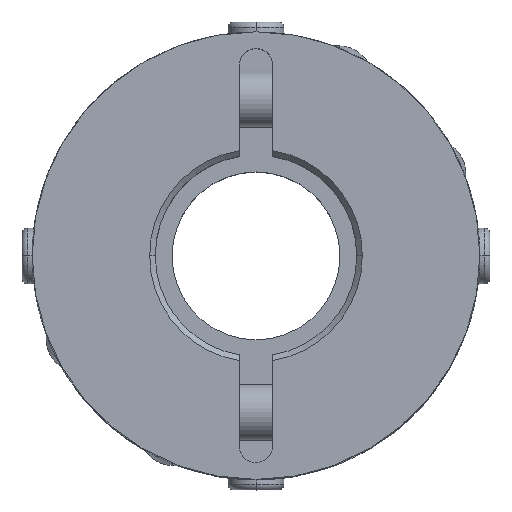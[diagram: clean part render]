
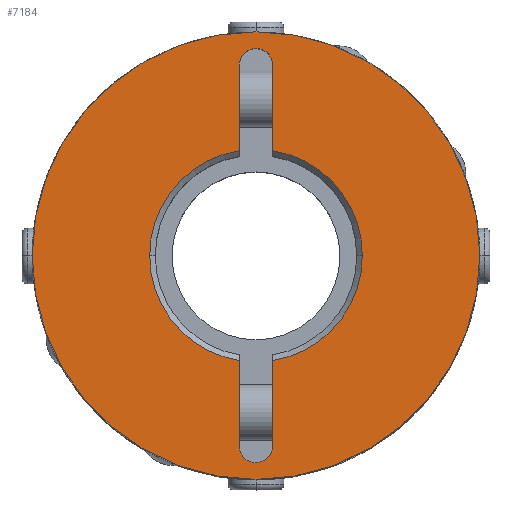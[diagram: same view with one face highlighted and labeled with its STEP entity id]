
A CAD part, top view. The second image highlights one B-rep face of the part: STEP entity #7184.
In plain terms, the highlighted planar face has unit normal (0, 0, 1).
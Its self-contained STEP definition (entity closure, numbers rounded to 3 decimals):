
#2862=CARTESIAN_POINT('',(-1.061,18.061,20.0));
#2863=VERTEX_POINT('',#2862);
#2879=CARTESIAN_POINT('',(1.5,17.,20.0));
#2880=VERTEX_POINT('',#2879);
#2887=CARTESIAN_POINT('',(0.,17.,20.0));
#2888=DIRECTION('',(0.0,0.0,1.));
#2889=DIRECTION('',(0.707,0.707,0.0));
#2890=AXIS2_PLACEMENT_3D('',#2887,#2888,#2889);
#2891=CIRCLE('',#2890,1.5);
#2892=EDGE_CURVE('',#2880,#2863,#2891,.T.);
#2904=CARTESIAN_POINT('',(1.061,-18.061,20.0));
#2905=VERTEX_POINT('',#2904);
#2921=CARTESIAN_POINT('',(-1.5,-17.,20.0));
#2922=VERTEX_POINT('',#2921);
#2929=CARTESIAN_POINT('',(0.0,-17.,20.0));
#2930=DIRECTION('',(0.0,0.0,1.0));
#2931=DIRECTION('',(-0.707,-0.707,0.0));
#2932=AXIS2_PLACEMENT_3D('',#2929,#2930,#2931);
#2933=CIRCLE('',#2932,1.5);
#2934=EDGE_CURVE('',#2922,#2905,#2933,.T.);
#3035=CARTESIAN_POINT('',(-9.5,0.,20.0));
#3036=VERTEX_POINT('',#3035);
#3043=CARTESIAN_POINT('',(-1.5,-9.381,20.0));
#3044=VERTEX_POINT('',#3043);
#3045=CARTESIAN_POINT('',(0.0,0.0,20.0));
#3046=DIRECTION('',(0.0,0.0,1.0));
#3047=DIRECTION('',(-1.0,0.0,0.0));
#3048=AXIS2_PLACEMENT_3D('',#3045,#3046,#3047);
#3049=CIRCLE('',#3048,9.5);
#3050=EDGE_CURVE('',#3036,#3044,#3049,.T.);
#3074=CARTESIAN_POINT('',(9.5,0.,20.0));
#3075=VERTEX_POINT('',#3074);
#3082=CARTESIAN_POINT('',(1.5,9.381,20.0));
#3083=VERTEX_POINT('',#3082);
#3084=CARTESIAN_POINT('',(0.0,0.0,20.0));
#3085=DIRECTION('',(0.0,0.0,1.0));
#3086=DIRECTION('',(1.0,0.0,0.0));
#3087=AXIS2_PLACEMENT_3D('',#3084,#3085,#3086);
#3088=CIRCLE('',#3087,9.5);
#3089=EDGE_CURVE('',#3075,#3083,#3088,.T.);
#3566=CARTESIAN_POINT('',(-20.0,0.,20.0));
#3567=VERTEX_POINT('',#3566);
#3574=CARTESIAN_POINT('',(20.0,0.0,20.0));
#3575=VERTEX_POINT('',#3574);
#3576=CARTESIAN_POINT('',(0.0,0.0,20.0));
#3577=DIRECTION('',(0.0,0.0,-1.0));
#3578=DIRECTION('',(1.0,0.0,0.0));
#3579=AXIS2_PLACEMENT_3D('',#3576,#3577,#3578);
#3580=CIRCLE('',#3579,20.0);
#3581=EDGE_CURVE('',#3567,#3575,#3580,.T.);
#6510=CARTESIAN_POINT('',(0.0,0.0,20.0));
#6511=DIRECTION('',(0.0,0.0,-1.0));
#6512=DIRECTION('',(1.0,0.0,0.0));
#6513=AXIS2_PLACEMENT_3D('',#6510,#6511,#6512);
#6514=CIRCLE('',#6513,20.0);
#6515=EDGE_CURVE('',#3575,#3567,#6514,.T.);
#6995=CARTESIAN_POINT('',(-1.5,17.,20.0));
#6996=VERTEX_POINT('',#6995);
#7003=CARTESIAN_POINT('',(-1.5,9.381,20.0));
#7004=VERTEX_POINT('',#7003);
#7005=CARTESIAN_POINT('',(-1.5,9.381,20.0));
#7006=DIRECTION('',(0.0,1.0,0.0));
#7007=VECTOR('',#7006,7.619);
#7008=LINE('',#7005,#7007);
#7009=EDGE_CURVE('',#7004,#6996,#7008,.T.);
#7084=CARTESIAN_POINT('',(1.5,17.,20.0));
#7085=DIRECTION('',(0.0,-1.0,0.0));
#7086=VECTOR('',#7085,7.619);
#7087=LINE('',#7084,#7086);
#7088=EDGE_CURVE('',#2880,#3083,#7087,.T.);
#7106=CARTESIAN_POINT('',(1.5,-9.381,20.0));
#7107=VERTEX_POINT('',#7106);
#7121=CARTESIAN_POINT('',(0.0,0.0,20.0));
#7122=DIRECTION('',(0.0,0.0,1.0));
#7123=DIRECTION('',(1.0,0.0,0.0));
#7124=AXIS2_PLACEMENT_3D('',#7121,#7122,#7123);
#7125=CIRCLE('',#7124,9.5);
#7126=EDGE_CURVE('',#7107,#3075,#7125,.T.);
#7131=CARTESIAN_POINT('',(1.818,0.,20.0));
#7132=DIRECTION('',(0.0,0.0,1.0));
#7133=DIRECTION('',(1.0,0.0,0.0));
#7134=AXIS2_PLACEMENT_3D('',#7131,#7132,#7133);
#7135=PLANE('',#7134);
#7136=ORIENTED_EDGE('',*,*,#6515,.F.);
#7137=ORIENTED_EDGE('',*,*,#3581,.F.);
#7138=EDGE_LOOP('',(#7136,#7137));
#7139=FACE_OUTER_BOUND('',#7138,.T.);
#7140=ORIENTED_EDGE('',*,*,#7126,.F.);
#7141=CARTESIAN_POINT('',(1.5,-17.,20.0));
#7142=VERTEX_POINT('',#7141);
#7143=CARTESIAN_POINT('',(1.5,-9.381,20.0));
#7144=DIRECTION('',(0.0,-1.0,0.0));
#7145=VECTOR('',#7144,7.619);
#7146=LINE('',#7143,#7145);
#7147=EDGE_CURVE('',#7107,#7142,#7146,.T.);
#7148=ORIENTED_EDGE('',*,*,#7147,.T.);
#7149=CARTESIAN_POINT('',(0.0,-17.,20.0));
#7150=DIRECTION('',(0.0,0.0,1.0));
#7151=DIRECTION('',(-0.707,-0.707,0.0));
#7152=AXIS2_PLACEMENT_3D('',#7149,#7150,#7151);
#7153=CIRCLE('',#7152,1.5);
#7154=EDGE_CURVE('',#2905,#7142,#7153,.T.);
#7155=ORIENTED_EDGE('',*,*,#7154,.F.);
#7156=ORIENTED_EDGE('',*,*,#2934,.F.);
#7157=CARTESIAN_POINT('',(-1.5,-17.,20.0));
#7158=DIRECTION('',(0.0,1.0,0.0));
#7159=VECTOR('',#7158,7.619);
#7160=LINE('',#7157,#7159);
#7161=EDGE_CURVE('',#2922,#3044,#7160,.T.);
#7162=ORIENTED_EDGE('',*,*,#7161,.T.);
#7163=ORIENTED_EDGE('',*,*,#3050,.F.);
#7164=CARTESIAN_POINT('',(0.0,0.0,20.0));
#7165=DIRECTION('',(0.0,0.0,1.0));
#7166=DIRECTION('',(-1.0,0.0,0.0));
#7167=AXIS2_PLACEMENT_3D('',#7164,#7165,#7166);
#7168=CIRCLE('',#7167,9.5);
#7169=EDGE_CURVE('',#7004,#3036,#7168,.T.);
#7170=ORIENTED_EDGE('',*,*,#7169,.F.);
#7171=ORIENTED_EDGE('',*,*,#7009,.T.);
#7172=CARTESIAN_POINT('',(0.,17.,20.0));
#7173=DIRECTION('',(0.0,0.0,1.));
#7174=DIRECTION('',(0.707,0.707,0.0));
#7175=AXIS2_PLACEMENT_3D('',#7172,#7173,#7174);
#7176=CIRCLE('',#7175,1.5);
#7177=EDGE_CURVE('',#2863,#6996,#7176,.T.);
#7178=ORIENTED_EDGE('',*,*,#7177,.F.);
#7179=ORIENTED_EDGE('',*,*,#2892,.F.);
#7180=ORIENTED_EDGE('',*,*,#7088,.T.);
#7181=ORIENTED_EDGE('',*,*,#3089,.F.);
#7182=EDGE_LOOP('',(#7140,#7148,#7155,#7156,#7162,#7163,#7170,#7171,#7178,#7179,#7180,#7181));
#7183=FACE_BOUND('',#7182,.T.);
#7184=ADVANCED_FACE('',(#7139,#7183),#7135,.T.);
